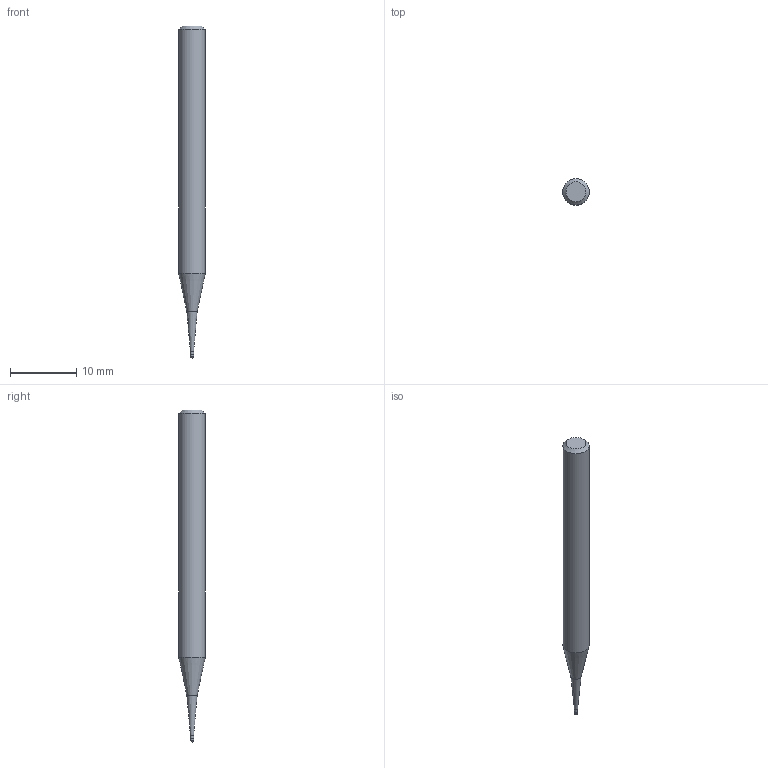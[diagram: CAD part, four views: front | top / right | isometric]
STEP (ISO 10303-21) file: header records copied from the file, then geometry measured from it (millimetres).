
FILE_DESCRIPTION((''),'2;1');
FILE_NAME('C:\Users\nsx150\AppData\Local\Temp\Mastercam 2021\SNAKH10GOD\TEMP.step','2021-10-21T13:31:22',(''),(''),'STEP Write','Mastercam 2021 ... CNC Software, Inc.','');
FILE_SCHEMA(('AUTOMOTIVE_DESIGN'));
Length unit declared in the file: millimetre
Products named in the file (1): None
Bounding box: 4 x 4 x 50 mm (x, y, z)
Volume: 509.1 mm3; surface area: 549 mm2
Topology: 2 solids, 2 shells, 10 faces, 16 edges, 9 vertices
Faces by surface type: plane 3, cylinder 3, cone 3, sphere 1
Full cylindrical faces by diameter (mm): 0.485 x1, 0.5 x1, 4 x1
Entity records: 232 total; most frequent: DIRECTION 40, CARTESIAN_POINT 28, AXIS2_PLACEMENT_3D 20, ORIENTED_EDGE 16, EDGE_LOOP 16, STYLED_ITEM 13, ADVANCED_FACE 10, FACE_BOUND 9
